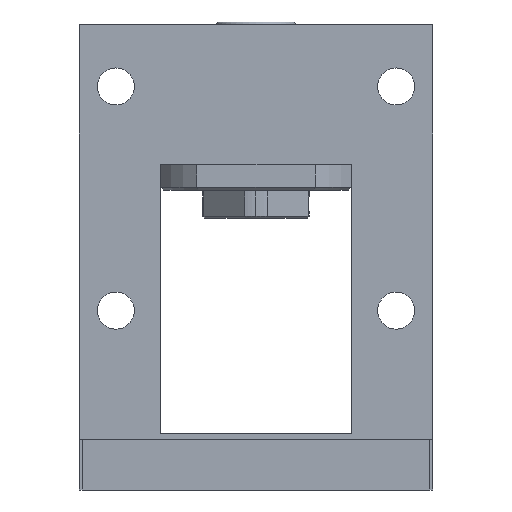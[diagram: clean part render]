
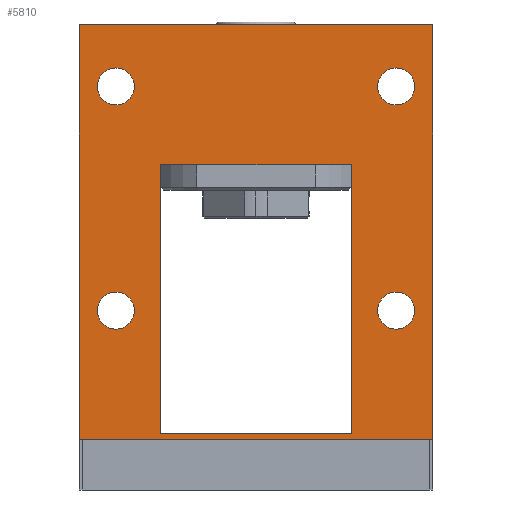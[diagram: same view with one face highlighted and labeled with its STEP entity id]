
A CAD part, front view. The second image highlights one B-rep face of the part: STEP entity #5810.
In plain terms, the highlighted planar face has unit normal (0, -1, 0).
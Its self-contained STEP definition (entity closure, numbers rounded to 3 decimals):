
#31 = ORIENTED_EDGE ( 'NONE', *, *, #6562, .F. ) ;
#57 = CARTESIAN_POINT ( 'NONE',  ( 21.7, -20., -46. ) ) ;
#88 = DIRECTION ( 'NONE',  ( 0., -1., 0. ) ) ;
#116 = PLANE ( 'NONE',  #6404 ) ;
#240 = CARTESIAN_POINT ( 'NONE',  ( 25., -20., -46. ) ) ;
#276 = VERTEX_POINT ( 'NONE', #2171 ) ;
#293 = FACE_OUTER_BOUND ( 'NONE', #3707, .T. ) ;
#297 = DIRECTION ( 'NONE',  ( 0., 0., 1. ) ) ;
#402 = LINE ( 'NONE', #3191, #3746 ) ;
#447 = VERTEX_POINT ( 'NONE', #4662 ) ;
#482 = DIRECTION ( 'NONE',  ( 0., 1., 0. ) ) ;
#522 = ORIENTED_EDGE ( 'NONE', *, *, #3390, .T. ) ;
#549 = ORIENTED_EDGE ( 'NONE', *, *, #2974, .F. ) ;
#717 = VERTEX_POINT ( 'NONE', #2531 ) ;
#754 = CARTESIAN_POINT ( 'NONE',  ( -46.482, -20., -68. ) ) ;
#842 = CIRCLE ( 'NONE', #2731, 3.3 ) ;
#859 = VERTEX_POINT ( 'NONE', #1754 ) ;
#873 = DIRECTION ( 'NONE',  ( 0., 0., 1. ) ) ;
#935 = CARTESIAN_POINT ( 'NONE',  ( -25., -20., -46. ) ) ;
#945 = VERTEX_POINT ( 'NONE', #2312 ) ;
#1021 = CARTESIAN_POINT ( 'NONE',  ( -25., -20., -6. ) ) ;
#1065 = CARTESIAN_POINT ( 'NONE',  ( 31.5, -20., 5. ) ) ;
#1077 = CIRCLE ( 'NONE', #7795, 3.3 ) ;
#1098 = CIRCLE ( 'NONE', #4951, 3.3 ) ;
#1232 = EDGE_LOOP ( 'NONE', ( #31, #5405 ) ) ;
#1362 = CARTESIAN_POINT ( 'NONE',  ( -46.482, -20., 5. ) ) ;
#1365 = EDGE_CURVE ( 'NONE', #945, #717, #5444, .T. ) ;
#1373 = AXIS2_PLACEMENT_3D ( 'NONE', #1021, #482, #2399 ) ;
#1471 = ORIENTED_EDGE ( 'NONE', *, *, #3203, .F. ) ;
#1477 = LINE ( 'NONE', #6284, #6093 ) ;
#1545 = DIRECTION ( 'NONE',  ( 0., 0., 1. ) ) ;
#1646 = DIRECTION ( 'NONE',  ( 1., 0., 0. ) ) ;
#1708 = EDGE_CURVE ( 'NONE', #7613, #7288, #4947, .T. ) ;
#1735 = AXIS2_PLACEMENT_3D ( 'NONE', #5641, #1885, #6266 ) ;
#1754 = CARTESIAN_POINT ( 'NONE',  ( -31.5, -20., -69. ) ) ;
#1786 = ORIENTED_EDGE ( 'NONE', *, *, #2645, .T. ) ;
#1885 = DIRECTION ( 'NONE',  ( 0., -1., 0. ) ) ;
#1886 = ORIENTED_EDGE ( 'NONE', *, *, #6354, .F. ) ;
#1913 = DIRECTION ( 'NONE',  ( 0., 0., -1. ) ) ;
#1970 = FACE_BOUND ( 'NONE', #1232, .T. ) ;
#1982 = VECTOR ( 'NONE', #6546, 1000. ) ;
#2067 = ORIENTED_EDGE ( 'NONE', *, *, #1708, .F. ) ;
#2073 = VERTEX_POINT ( 'NONE', #57 ) ;
#2084 = ORIENTED_EDGE ( 'NONE', *, *, #4258, .F. ) ;
#2171 = CARTESIAN_POINT ( 'NONE',  ( -28.3, -20., -46. ) ) ;
#2312 = CARTESIAN_POINT ( 'NONE',  ( -28.3, -20., -6. ) ) ;
#2354 = FACE_BOUND ( 'NONE', #7003, .T. ) ;
#2368 = DIRECTION ( 'NONE',  ( 0., 0., 1. ) ) ;
#2399 = DIRECTION ( 'NONE',  ( 0., 0., 1. ) ) ;
#2531 = CARTESIAN_POINT ( 'NONE',  ( -21.7, -20., -6. ) ) ;
#2632 = DIRECTION ( 'NONE',  ( 0., 0., 1. ) ) ;
#2645 = EDGE_CURVE ( 'NONE', #3714, #7288, #5396, .T. ) ;
#2731 = AXIS2_PLACEMENT_3D ( 'NONE', #7779, #4051, #297 ) ;
#2780 = AXIS2_PLACEMENT_3D ( 'NONE', #6556, #2810, #7193 ) ;
#2796 = EDGE_CURVE ( 'NONE', #7982, #3872, #6288, .T. ) ;
#2810 = DIRECTION ( 'NONE',  ( 0., 1., 0. ) ) ;
#2912 = CARTESIAN_POINT ( 'NONE',  ( 0., -20., -20. ) ) ;
#2943 = VECTOR ( 'NONE', #4493, 1000. ) ;
#2974 = EDGE_CURVE ( 'NONE', #5548, #859, #3645, .T. ) ;
#2984 = CARTESIAN_POINT ( 'NONE',  ( -31.5, -20., -68. ) ) ;
#3018 = CARTESIAN_POINT ( 'NONE',  ( -34.131, -20., -68. ) ) ;
#3040 = EDGE_CURVE ( 'NONE', #717, #945, #3441, .T. ) ;
#3098 = DIRECTION ( 'NONE',  ( 0., 0., -1. ) ) ;
#3181 = CARTESIAN_POINT ( 'NONE',  ( -21.7, -20., -46. ) ) ;
#3191 = CARTESIAN_POINT ( 'NONE',  ( 31.5, -20., -68. ) ) ;
#3203 = EDGE_CURVE ( 'NONE', #7982, #5548, #402, .T. ) ;
#3390 = EDGE_CURVE ( 'NONE', #5766, #276, #4023, .T. ) ;
#3441 = CIRCLE ( 'NONE', #1373, 3.3 ) ;
#3567 = EDGE_CURVE ( 'NONE', #859, #3872, #6173, .T. ) ;
#3630 = FACE_BOUND ( 'NONE', #6584, .T. ) ;
#3645 = LINE ( 'NONE', #5910, #1982 ) ;
#3707 = EDGE_LOOP ( 'NONE', ( #1471, #5540, #7863, #549 ) ) ;
#3714 = VERTEX_POINT ( 'NONE', #5868 ) ;
#3746 = VECTOR ( 'NONE', #7567, 1000. ) ;
#3752 = VECTOR ( 'NONE', #6165, 1000. ) ;
#3829 = EDGE_CURVE ( 'NONE', #7613, #6486, #6460, .T. ) ;
#3836 = CARTESIAN_POINT ( 'NONE',  ( 25., -20., -6. ) ) ;
#3840 = FACE_BOUND ( 'NONE', #6008, .T. ) ;
#3872 = VERTEX_POINT ( 'NONE', #4861 ) ;
#4023 = CIRCLE ( 'NONE', #7912, 3.3 ) ;
#4051 = DIRECTION ( 'NONE',  ( 0., -1., 0. ) ) ;
#4139 = ORIENTED_EDGE ( 'NONE', *, *, #3040, .T. ) ;
#4170 = DIRECTION ( 'NONE',  ( 0., 0., 1. ) ) ;
#4233 = EDGE_CURVE ( 'NONE', #6486, #3714, #1477, .T. ) ;
#4258 = EDGE_CURVE ( 'NONE', #447, #6739, #1098, .T. ) ;
#4459 = DIRECTION ( 'NONE',  ( 0., 0., 1. ) ) ;
#4463 = CIRCLE ( 'NONE', #1735, 3.3 ) ;
#4493 = DIRECTION ( 'NONE',  ( -1., 0., 0. ) ) ;
#4541 = CARTESIAN_POINT ( 'NONE',  ( 28.3, -20., -6. ) ) ;
#4611 = DIRECTION ( 'NONE',  ( 0., -1., 0. ) ) ;
#4662 = CARTESIAN_POINT ( 'NONE',  ( 21.7, -20., -6. ) ) ;
#4769 = AXIS2_PLACEMENT_3D ( 'NONE', #6630, #5228, #4170 ) ;
#4861 = CARTESIAN_POINT ( 'NONE',  ( -31.5, -20., 5. ) ) ;
#4947 = LINE ( 'NONE', #5589, #8083 ) ;
#4951 = AXIS2_PLACEMENT_3D ( 'NONE', #3836, #88, #4459 ) ;
#4955 = CARTESIAN_POINT ( 'NONE',  ( -17., -20., -68. ) ) ;
#4976 = CARTESIAN_POINT ( 'NONE',  ( 31.5, -20., -69. ) ) ;
#5205 = ORIENTED_EDGE ( 'NONE', *, *, #1365, .T. ) ;
#5213 = EDGE_CURVE ( 'NONE', #276, #5766, #6077, .T. ) ;
#5223 = EDGE_LOOP ( 'NONE', ( #2084, #1886 ) ) ;
#5228 = DIRECTION ( 'NONE',  ( 0., 1., 0. ) ) ;
#5269 = FACE_BOUND ( 'NONE', #5223, .T. ) ;
#5305 = DIRECTION ( 'NONE',  ( 0., 1., 0. ) ) ;
#5396 = LINE ( 'NONE', #3018, #3752 ) ;
#5405 = ORIENTED_EDGE ( 'NONE', *, *, #5718, .F. ) ;
#5444 = CIRCLE ( 'NONE', #4769, 3.3 ) ;
#5540 = ORIENTED_EDGE ( 'NONE', *, *, #2796, .T. ) ;
#5548 = VERTEX_POINT ( 'NONE', #4976 ) ;
#5589 = CARTESIAN_POINT ( 'NONE',  ( -17., -20., 13.623 ) ) ;
#5641 = CARTESIAN_POINT ( 'NONE',  ( 25., -20., -46. ) ) ;
#5718 = EDGE_CURVE ( 'NONE', #8108, #2073, #1077, .T. ) ;
#5734 = CARTESIAN_POINT ( 'NONE',  ( -17., -20., -20. ) ) ;
#5742 = ORIENTED_EDGE ( 'NONE', *, *, #5213, .T. ) ;
#5766 = VERTEX_POINT ( 'NONE', #3181 ) ;
#5810 = ADVANCED_FACE ( 'NONE', ( #2354, #3840, #3630, #1970, #5269, #293 ), #116, .F. ) ;
#5868 = CARTESIAN_POINT ( 'NONE',  ( 17., -20., -68. ) ) ;
#5910 = CARTESIAN_POINT ( 'NONE',  ( -34.131, -20., -69. ) ) ;
#6008 = EDGE_LOOP ( 'NONE', ( #5205, #4139 ) ) ;
#6063 = VECTOR ( 'NONE', #1646, 1000. ) ;
#6065 = CARTESIAN_POINT ( 'NONE',  ( 17., -20., -20. ) ) ;
#6077 = CIRCLE ( 'NONE', #2780, 3.3 ) ;
#6093 = VECTOR ( 'NONE', #1913, 1000. ) ;
#6165 = DIRECTION ( 'NONE',  ( -1., 0., 0. ) ) ;
#6173 = LINE ( 'NONE', #2984, #6377 ) ;
#6218 = ORIENTED_EDGE ( 'NONE', *, *, #3829, .T. ) ;
#6266 = DIRECTION ( 'NONE',  ( 0., 0., 1. ) ) ;
#6284 = CARTESIAN_POINT ( 'NONE',  ( 17., -20., 13.623 ) ) ;
#6288 = LINE ( 'NONE', #1362, #2943 ) ;
#6354 = EDGE_CURVE ( 'NONE', #6739, #447, #842, .T. ) ;
#6376 = DIRECTION ( 'NONE',  ( 0., 1., 0. ) ) ;
#6377 = VECTOR ( 'NONE', #2368, 1000. ) ;
#6404 = AXIS2_PLACEMENT_3D ( 'NONE', #754, #6376, #2632 ) ;
#6460 = LINE ( 'NONE', #2912, #6063 ) ;
#6486 = VERTEX_POINT ( 'NONE', #6065 ) ;
#6510 = ORIENTED_EDGE ( 'NONE', *, *, #4233, .T. ) ;
#6546 = DIRECTION ( 'NONE',  ( -1., 0., 0. ) ) ;
#6556 = CARTESIAN_POINT ( 'NONE',  ( -25., -20., -46. ) ) ;
#6562 = EDGE_CURVE ( 'NONE', #2073, #8108, #4463, .T. ) ;
#6584 = EDGE_LOOP ( 'NONE', ( #5742, #522 ) ) ;
#6630 = CARTESIAN_POINT ( 'NONE',  ( -25., -20., -6. ) ) ;
#6739 = VERTEX_POINT ( 'NONE', #4541 ) ;
#7003 = EDGE_LOOP ( 'NONE', ( #6510, #1786, #2067, #6218 ) ) ;
#7193 = DIRECTION ( 'NONE',  ( 0., 0., 1. ) ) ;
#7288 = VERTEX_POINT ( 'NONE', #4955 ) ;
#7567 = DIRECTION ( 'NONE',  ( 0., 0., -1. ) ) ;
#7613 = VERTEX_POINT ( 'NONE', #5734 ) ;
#7779 = CARTESIAN_POINT ( 'NONE',  ( 25., -20., -6. ) ) ;
#7795 = AXIS2_PLACEMENT_3D ( 'NONE', #240, #4611, #873 ) ;
#7863 = ORIENTED_EDGE ( 'NONE', *, *, #3567, .F. ) ;
#7912 = AXIS2_PLACEMENT_3D ( 'NONE', #935, #5305, #1545 ) ;
#7982 = VERTEX_POINT ( 'NONE', #1065 ) ;
#8064 = CARTESIAN_POINT ( 'NONE',  ( 28.3, -20., -46. ) ) ;
#8083 = VECTOR ( 'NONE', #3098, 1000. ) ;
#8108 = VERTEX_POINT ( 'NONE', #8064 ) ;
